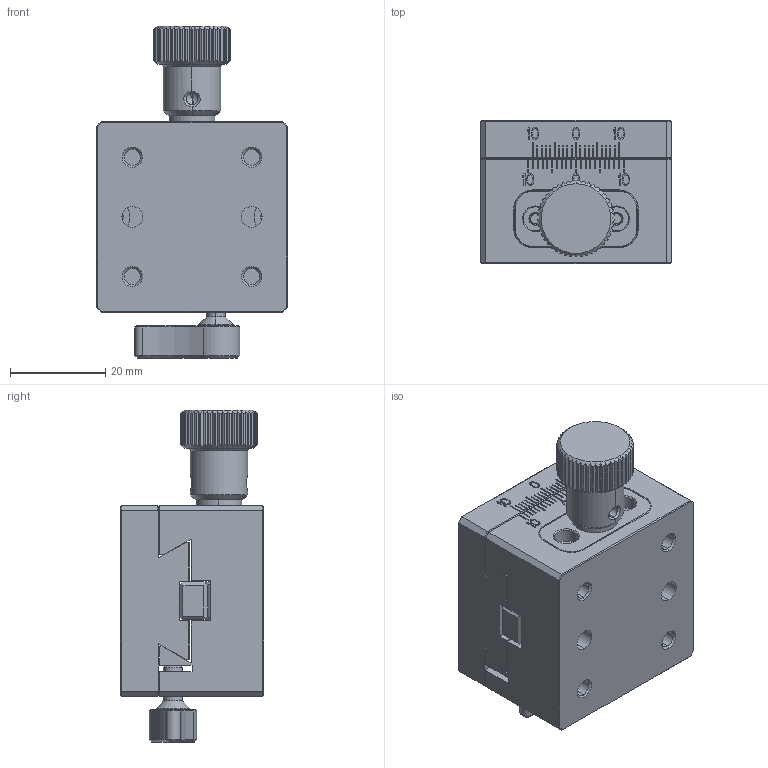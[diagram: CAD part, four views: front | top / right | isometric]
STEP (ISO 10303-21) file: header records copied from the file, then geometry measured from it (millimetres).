
FILE_DESCRIPTION((''),'2;1');
FILE_NAME('ASSY-40-40-ST20_ASM','2022-02-17T16:50:20',('windows10'),(''),'CREO PARAMETRIC BY PTC INC, 2018260','CREO PARAMETRIC BY PTC INC, 2018260','');
FILE_SCHEMA(('CONFIG_CONTROL_DESIGN'));
Length unit declared in the file: millimetre
Products named in the file (13): BOTTOM-40-40-F; HOLDER-PINION-4D5; PINION-4-29; WHASHER-9D6-4D1-1D2; HANDLE-16-19; ASSY-HANDLE-16-40_ASM; TOP-40-M; RACK-8-6-40; ASSY-TOP-40-40-M_ASM; STOPPER-A-NEW; LEVER-NEW; ASSY-STOPPER-NEW_ASM; ASSY-40-40-ST20_ASM
Assembly tree (12 placements, depth 3):
  ASSY-40-40-ST20_ASM
    BOTTOM-40-40-F
    ASSY-HANDLE-16-40_ASM
      HOLDER-PINION-4D5
      PINION-4-29
      WHASHER-9D6-4D1-1D2
      HANDLE-16-19
    ASSY-TOP-40-40-M_ASM
      TOP-40-M
      RACK-8-6-40
    ASSY-STOPPER-NEW_ASM
      STOPPER-A-NEW
      LEVER-NEW
Bounding box: 40 x 30 x 69.57 mm (x, y, z)
Volume: 47929.6 mm3; surface area: 21713.3 mm2
Topology: 9 solids, 9 shells, 1098 faces, 2818 edges, 1819 vertices
Faces by surface type: plane 788, cylinder 183, cone 123, bspline 4
Entity records: 34102 total; most frequent: CARTESIAN_POINT 7130, ORIENTED_EDGE 5624, DIRECTION 5319, EDGE_CURVE 2812, VECTOR 2107, LINE 2107, VERTEX_POINT 1819, AXIS2_PLACEMENT_3D 1606
